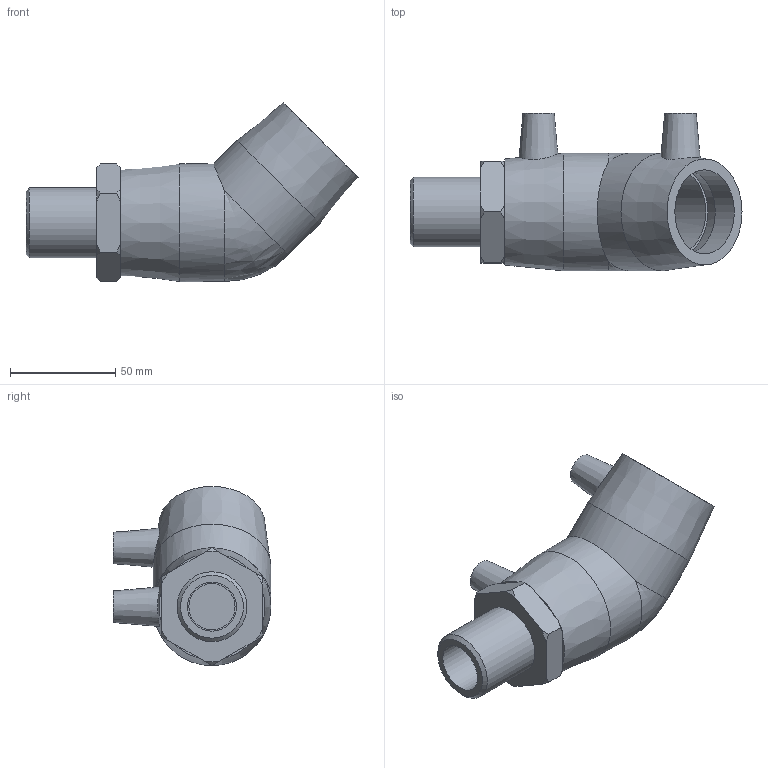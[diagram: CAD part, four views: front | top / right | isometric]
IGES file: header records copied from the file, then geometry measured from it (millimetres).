
Global section: file name: 492604040010N.ipt; native system: Autodesk Inventor 2015; preprocessor: unknown; author: KIM; date: 20200202.122418; units: millimetre
Bounding box: 158 x 75 x 85.24 mm (x, y, z)
Volume: 218922.8 mm3; surface area: 48250.6 mm2
Topology: 1 solids, 2 shells, 61 faces, 146 edges, 99 vertices
Faces by surface type: plane 25, cone 17, revolution 10, cylinder 8, bspline 1
Full cylindrical faces by diameter (mm): 4 x2, 33.249 x1, 40 x2, 56 x2
